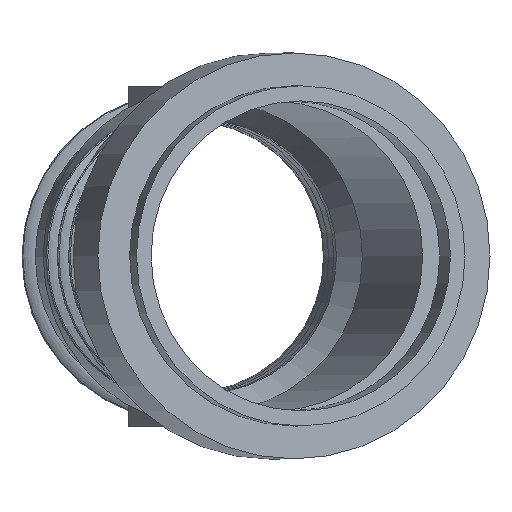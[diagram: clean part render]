
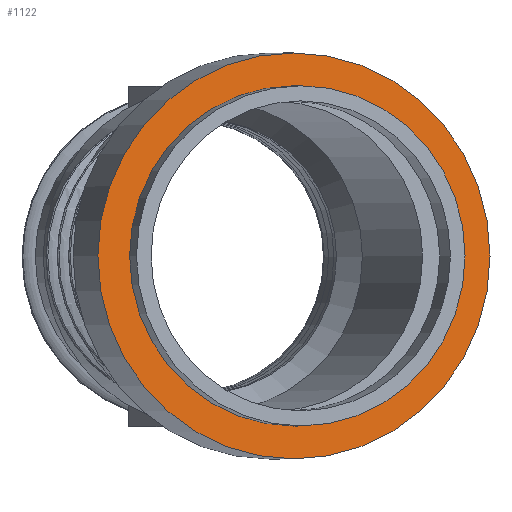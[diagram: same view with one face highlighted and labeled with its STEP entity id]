
A CAD part, top view. The second image highlights one B-rep face of the part: STEP entity #1122.
In plain terms, the highlighted planar face has unit normal (0.259, 0, 0.966) as drawn and (1, 0, 0) by its records, which use the part's own axes.
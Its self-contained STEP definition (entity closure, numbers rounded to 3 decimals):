
#186=PLANE($,#1241);
#238=FACE_BOUND($,#394,.T.);
#239=FACE_BOUND($,#395,.T.);
#394=EDGE_LOOP($,(#972));
#395=EDGE_LOOP($,(#973));
#459=CIRCLE($,#1240,26.85);
#460=CIRCLE($,#1242,22.5);
#565=VERTEX_POINT($,#2542);
#566=VERTEX_POINT($,#2545);
#704=EDGE_CURVE($,#565,#565,#459,.T.);
#705=EDGE_CURVE($,#566,#566,#460,.T.);
#972=ORIENTED_EDGE($,*,*,#705,.F.);
#973=ORIENTED_EDGE($,*,*,#704,.T.);
#1122=ADVANCED_FACE($,(#238,#239),#186,.T.);
#1240=AXIS2_PLACEMENT_3D($,#2543,#1507,#1508);
#1241=AXIS2_PLACEMENT_3D($,#2544,#1509,#1510);
#1242=AXIS2_PLACEMENT_3D($,#2546,#1511,#1512);
#1507=DIRECTION('center_axis',(1.,0.,0.));
#1508=DIRECTION('ref_axis',(0.,1.,0.));
#1509=DIRECTION('center_axis',(1.,0.,0.));
#1510=DIRECTION('ref_axis',(0.,0.,-1.));
#1511=DIRECTION('center_axis',(1.,0.,0.));
#1512=DIRECTION('ref_axis',(0.,1.,0.));
#2542=CARTESIAN_POINT('',(47.7,26.85,0.));
#2543=CARTESIAN_POINT('Origin',(47.7,0.,0.));
#2544=CARTESIAN_POINT('Origin',(47.7,24.675,0.));
#2545=CARTESIAN_POINT('',(47.7,22.5,0.));
#2546=CARTESIAN_POINT('Origin',(47.7,0.,0.));
